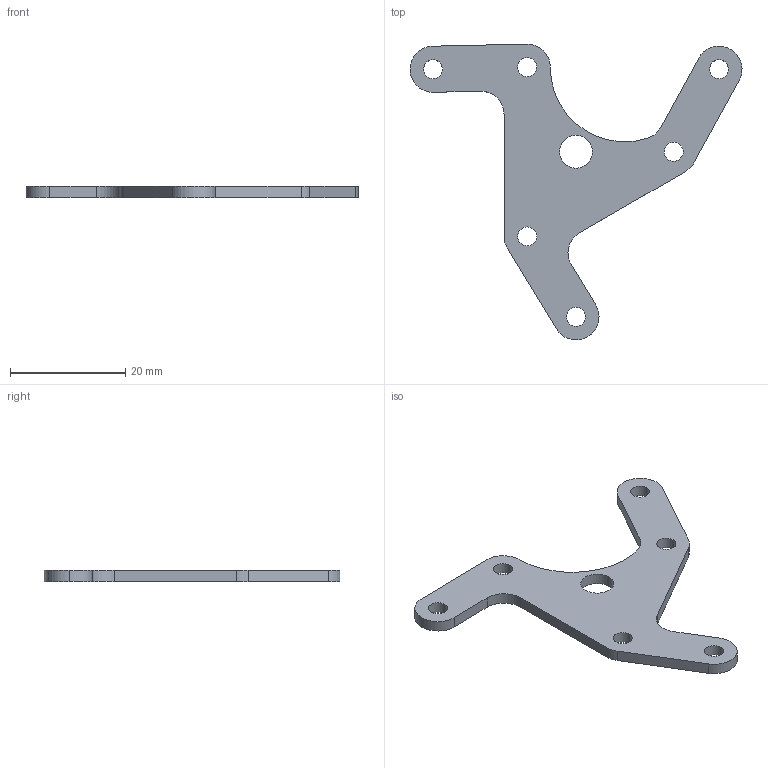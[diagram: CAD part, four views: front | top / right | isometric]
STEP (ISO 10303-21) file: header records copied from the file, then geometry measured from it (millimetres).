
FILE_DESCRIPTION (( 'STEP AP214' ), '1' );
FILE_NAME ('êðåïëåíèå1.STEP', '2026-03-02T00:04:43', ( '' ), ( '' ), 'SwSTEP 2.0', 'SolidWorks 2025', '' );
FILE_SCHEMA (( 'AUTOMOTIVE_DESIGN' ));
Length unit declared in the file: millimetre
Products named in the file (1): крепление1
Bounding box: 57.6 x 51.31 x 2 mm (x, y, z)
Volume: 1878.2 mm3; surface area: 2458.2 mm2
Topology: 1 solids, 1 shells, 36 faces, 102 edges, 68 vertices
Faces by surface type: cylinder 26, plane 10
Entity records: 1249 total; most frequent: DIRECTION 228, CARTESIAN_POINT 207, ORIENTED_EDGE 204, EDGE_CURVE 102, AXIS2_PLACEMENT_3D 89, VERTEX_POINT 68, CIRCLE 52, EDGE_LOOP 50
